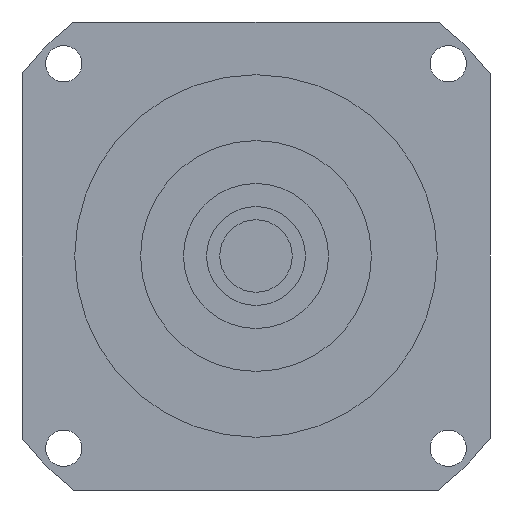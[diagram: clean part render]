
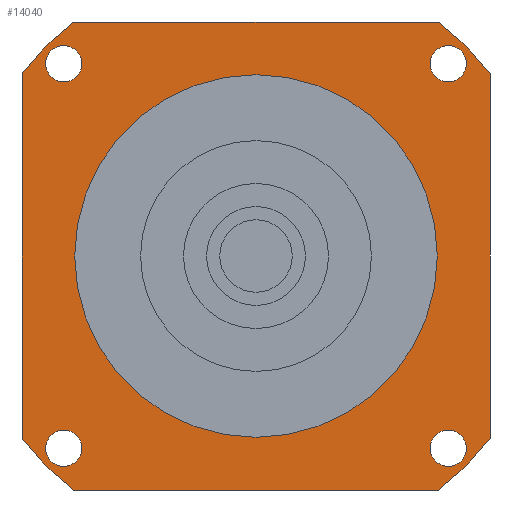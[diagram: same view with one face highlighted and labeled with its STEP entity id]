
A CAD part, left-side view. The second image highlights one B-rep face of the part: STEP entity #14040.
In plain terms, the highlighted planar face has unit normal (-1, 0, 0) as drawn and (0, 0, -1) by its records, which use the part's own axes.
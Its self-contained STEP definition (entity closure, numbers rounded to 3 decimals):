
#10560=CARTESIAN_POINT('',(71.,55.308,-59.7));
#10570=VERTEX_POINT('',#10560);
#10620=CARTESIAN_POINT('',(71.,71.,-59.7));
#10630=DIRECTION('',(0.,-1.,0.));
#10640=VECTOR('',#10630,1000.);
#10650=LINE('',#10620,#10640);
#10660=CARTESIAN_POINT('',(71.,-55.308,-59.7));
#10670=VERTEX_POINT('',#10660);
#10680=EDGE_CURVE('',#10570,#10670,#10650,.T.);
#12460=CARTESIAN_POINT('',(52.836,-58.336,-59.7));
#12470=VERTEX_POINT('',#12460);
#12500=CARTESIAN_POINT('',(58.336,-58.336,-59.7));
#12510=DIRECTION('',(0.,0.,-1.));
#12520=DIRECTION('',(1.,0.,0.));
#12530=AXIS2_PLACEMENT_3D('',#12500,#12510,#12520);
#12540=CIRCLE('',#12530,5.5);
#12550=CARTESIAN_POINT('',(63.836,-58.336,-59.7));
#12560=VERTEX_POINT('',#12550);
#12570=EDGE_CURVE('',#12560,#12470,#12540,.T.);
#12690=CARTESIAN_POINT('',(71.,71.,-59.7));
#12700=DIRECTION('',(0.,0.,-1.));
#12710=DIRECTION('',(1.,0.,0.));
#12720=AXIS2_PLACEMENT_3D('',#12690,#12700,#12710);
#12730=PLANE('',#12720);
#12740=CARTESIAN_POINT('',(-58.336,-58.336,-59.7));
#12750=DIRECTION('',(0.,0.,-1.));
#12760=DIRECTION('',(0.,-1.,0.));
#12770=AXIS2_PLACEMENT_3D('',#12740,#12750,#12760);
#12780=CIRCLE('',#12770,5.5);
#12790=CARTESIAN_POINT('',(-58.336,-63.836,-59.7));
#12800=VERTEX_POINT('',#12790);
#12810=CARTESIAN_POINT('',(-58.336,-52.836,-59.7));
#12820=VERTEX_POINT('',#12810);
#12830=EDGE_CURVE('',#12800,#12820,#12780,.T.);
#12840=ORIENTED_EDGE('',*,*,#12830,.F.);
#12850=EDGE_CURVE('',#12820,#12800,#12780,.T.);
#12860=ORIENTED_EDGE('',*,*,#12850,.F.);
#12870=EDGE_LOOP('',(#12860,#12840));
#12880=FACE_BOUND('',#12870,.T.);
#12890=CARTESIAN_POINT('',(-58.336,58.336,-59.7));
#12900=DIRECTION('',(0.,0.,-1.));
#12910=DIRECTION('',(-1.,0.,0.));
#12920=AXIS2_PLACEMENT_3D('',#12890,#12900,#12910);
#12930=CIRCLE('',#12920,5.5);
#12940=CARTESIAN_POINT('',(-63.836,58.336,-59.7));
#12950=VERTEX_POINT('',#12940);
#12960=CARTESIAN_POINT('',(-52.836,58.336,-59.7));
#12970=VERTEX_POINT('',#12960);
#12980=EDGE_CURVE('',#12950,#12970,#12930,.T.);
#12990=ORIENTED_EDGE('',*,*,#12980,.F.);
#13000=EDGE_CURVE('',#12970,#12950,#12930,.T.);
#13010=ORIENTED_EDGE('',*,*,#13000,.F.);
#13020=EDGE_LOOP('',(#13010,#12990));
#13030=FACE_BOUND('',#13020,.T.);
#13040=CARTESIAN_POINT('',(58.336,58.336,-59.7));
#13050=DIRECTION('',(0.,0.,-1.));
#13060=DIRECTION('',(0.,1.,0.));
#13070=AXIS2_PLACEMENT_3D('',#13040,#13050,#13060);
#13080=CIRCLE('',#13070,5.5);
#13090=CARTESIAN_POINT('',(58.336,63.836,-59.7));
#13100=VERTEX_POINT('',#13090);
#13110=CARTESIAN_POINT('',(58.336,52.836,-59.7));
#13120=VERTEX_POINT('',#13110);
#13130=EDGE_CURVE('',#13100,#13120,#13080,.T.);
#13140=ORIENTED_EDGE('',*,*,#13130,.F.);
#13150=EDGE_CURVE('',#13120,#13100,#13080,.T.);
#13160=ORIENTED_EDGE('',*,*,#13150,.F.);
#13170=EDGE_LOOP('',(#13160,#13140));
#13180=FACE_BOUND('',#13170,.T.);
#13190=CARTESIAN_POINT('',(0.,0.,
-59.7));
#13200=DIRECTION('',(0.,0.,1.));
#13210=DIRECTION('',(0.,1.,0.));
#13220=AXIS2_PLACEMENT_3D('',#13190,#13200,#13210);
#13230=CIRCLE('',#13220,55.);
#13240=CARTESIAN_POINT('',(-55.,0.,-59.7));
#13250=VERTEX_POINT('',#13240);
#13260=CARTESIAN_POINT('',(55.,0.,-59.7));
#13270=VERTEX_POINT('',#13260);
#13280=EDGE_CURVE('',#13250,#13270,#13230,.T.);
#13290=ORIENTED_EDGE('',*,*,#13280,.T.);
#13300=CARTESIAN_POINT('',(0.,55.,-59.7));
#13310=VERTEX_POINT('',#13300);
#13320=EDGE_CURVE('',#13310,#13250,#13230,.T.);
#13330=ORIENTED_EDGE('',*,*,#13320,.T.);
#13340=EDGE_CURVE('',#13270,#13310,#13230,.T.);
#13350=ORIENTED_EDGE('',*,*,#13340,.T.);
#13360=EDGE_LOOP('',(#13350,#13330,#13290));
#13370=FACE_BOUND('',#13360,.T.);
#13380=CARTESIAN_POINT('',(-71.,71.,-59.7));
#13390=DIRECTION('',(1.,0.,0.));
#13400=VECTOR('',#13390,1000.);
#13410=LINE('',#13380,#13400);
#13420=CARTESIAN_POINT('',(-55.308,71.,-59.7));
#13430=VERTEX_POINT('',#13420);
#13440=CARTESIAN_POINT('',(55.308,71.,-59.7));
#13450=VERTEX_POINT('',#13440);
#13460=EDGE_CURVE('',#13430,#13450,#13410,.T.);
#13470=ORIENTED_EDGE('',*,*,#13460,.T.);
#13480=CARTESIAN_POINT('',(0.,0.,
-59.7));
#13490=DIRECTION('',(0.,0.,-1.));
#13500=DIRECTION('',(1.,0.,0.));
#13510=AXIS2_PLACEMENT_3D('',#13480,#13490,#13500);
#13520=CIRCLE('',#13510,90.);
#13530=CARTESIAN_POINT('',(-71.,55.308,-59.7));
#13540=VERTEX_POINT('',#13530);
#13550=EDGE_CURVE('',#13540,#13430,#13520,.T.);
#13560=ORIENTED_EDGE('',*,*,#13550,.T.);
#13570=CARTESIAN_POINT('',(-71.,-71.,-59.7));
#13580=DIRECTION('',(0.,1.,0.));
#13590=VECTOR('',#13580,1000.);
#13600=LINE('',#13570,#13590);
#13610=CARTESIAN_POINT('',(-71.,-55.308,-59.7));
#13620=VERTEX_POINT('',#13610);
#13630=EDGE_CURVE('',#13620,#13540,#13600,.T.);
#13640=ORIENTED_EDGE('',*,*,#13630,.T.);
#13650=CARTESIAN_POINT('',(0.,0.,
-59.7));
#13660=DIRECTION('',(0.,0.,-1.));
#13670=DIRECTION('',(1.,0.,0.));
#13680=AXIS2_PLACEMENT_3D('',#13650,#13660,#13670);
#13690=CIRCLE('',#13680,90.);
#13700=CARTESIAN_POINT('',(-55.308,-71.,-59.7));
#13710=VERTEX_POINT('',#13700);
#13720=EDGE_CURVE('',#13710,#13620,#13690,.T.);
#13730=ORIENTED_EDGE('',*,*,#13720,.T.);
#13740=CARTESIAN_POINT('',(71.,-71.,-59.7));
#13750=DIRECTION('',(-1.,0.,0.));
#13760=VECTOR('',#13750,1000.);
#13770=LINE('',#13740,#13760);
#13780=CARTESIAN_POINT('',(55.308,-71.,-59.7));
#13790=VERTEX_POINT('',#13780);
#13800=EDGE_CURVE('',#13790,#13710,#13770,.T.);
#13810=ORIENTED_EDGE('',*,*,#13800,.T.);
#13820=CARTESIAN_POINT('',(0.,0.,
-59.7));
#13830=DIRECTION('',(0.,0.,-1.));
#13840=DIRECTION('',(1.,0.,0.));
#13850=AXIS2_PLACEMENT_3D('',#13820,#13830,#13840);
#13860=CIRCLE('',#13850,90.);
#13870=EDGE_CURVE('',#10670,#13790,#13860,.T.);
#13880=ORIENTED_EDGE('',*,*,#13870,.T.);
#13890=ORIENTED_EDGE('',*,*,#10680,.T.);
#13900=CARTESIAN_POINT('',(0.,0.,
-59.7));
#13910=DIRECTION('',(0.,0.,-1.));
#13920=DIRECTION('',(1.,0.,0.));
#13930=AXIS2_PLACEMENT_3D('',#13900,#13910,#13920);
#13940=CIRCLE('',#13930,90.);
#13950=EDGE_CURVE('',#13450,#10570,#13940,.T.);
#13960=ORIENTED_EDGE('',*,*,#13950,.T.);
#13970=EDGE_LOOP('',(#13960,#13890,#13880,#13810,#13730,#13640,#13560,
#13470));
#13980=FACE_OUTER_BOUND('',#13970,.T.);
#13990=ORIENTED_EDGE('',*,*,#12570,.F.);
#14000=EDGE_CURVE('',#12470,#12560,#12540,.T.);
#14010=ORIENTED_EDGE('',*,*,#14000,.F.);
#14020=EDGE_LOOP('',(#14010,#13990));
#14030=FACE_BOUND('',#14020,.T.);
#14040=ADVANCED_FACE('',(#12880,#13030,#13180,#13370,#13980,#14030),
#12730,.T.);
